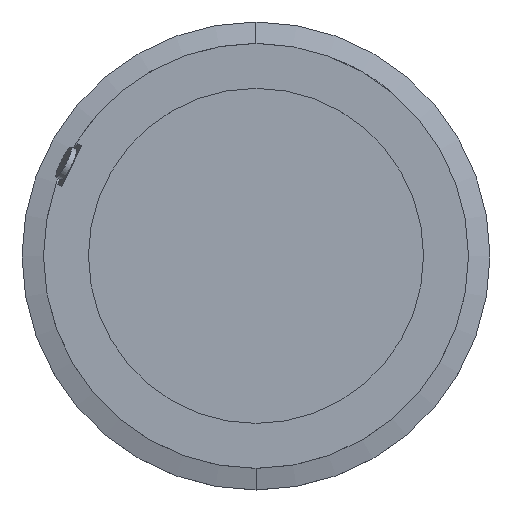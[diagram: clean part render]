
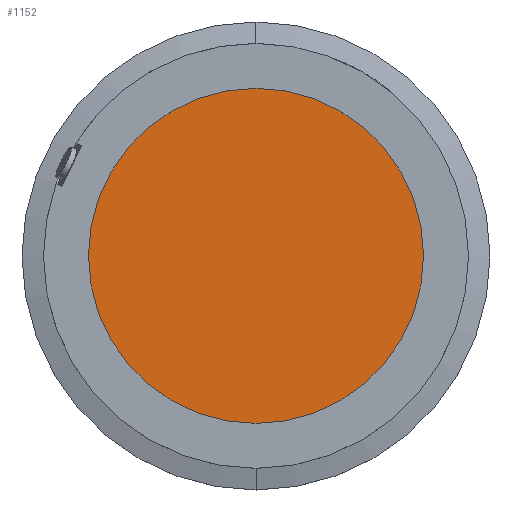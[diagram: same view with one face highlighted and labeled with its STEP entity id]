
A CAD part, top view. The second image highlights one B-rep face of the part: STEP entity #1152.
In plain terms, the highlighted planar face has unit normal (0, 0, 1).
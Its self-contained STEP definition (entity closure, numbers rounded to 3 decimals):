
#91 = DIRECTION ( 'NONE',  ( 0., 0., 1. ) ) ;
#167 = DIRECTION ( 'NONE',  ( 0., 1., 0. ) ) ;
#226 = CIRCLE ( 'NONE', #5444, 89.5 ) ;
#287 = CARTESIAN_POINT ( 'NONE',  ( 1940., 89.5, 1860. ) ) ;
#992 = EDGE_CURVE ( 'NONE', #2303, #2406, #3634, .T. ) ;
#1007 = CARTESIAN_POINT ( 'NONE',  ( 1995.5, 0., 1860. ) ) ;
#1020 = DIRECTION ( 'NONE',  ( 0., 0., -1. ) ) ;
#1152 = ADVANCED_FACE ( 'NONE', ( #1854 ), #5247, .T. ) ;
#1318 = EDGE_CURVE ( 'NONE', #2406, #2303, #226, .T. ) ;
#1837 = EDGE_LOOP ( 'NONE', ( #4596, #4226 ) ) ;
#1854 = FACE_OUTER_BOUND ( 'NONE', #1837, .T. ) ;
#2038 = DIRECTION ( 'NONE',  ( 0., 0., -1. ) ) ;
#2303 = VERTEX_POINT ( 'NONE', #4455 ) ;
#2406 = VERTEX_POINT ( 'NONE', #287 ) ;
#3508 = AXIS2_PLACEMENT_3D ( 'NONE', #3689, #2038, #5040 ) ;
#3634 = CIRCLE ( 'NONE', #3508, 89.5 ) ;
#3640 = CARTESIAN_POINT ( 'NONE',  ( 1940., 0., 1860. ) ) ;
#3689 = CARTESIAN_POINT ( 'NONE',  ( 1940., 0., 1860. ) ) ;
#3949 = DIRECTION ( 'NONE',  ( 0., -1., 0. ) ) ;
#4226 = ORIENTED_EDGE ( 'NONE', *, *, #992, .F. ) ;
#4455 = CARTESIAN_POINT ( 'NONE',  ( 1940., -89.5, 1860. ) ) ;
#4596 = ORIENTED_EDGE ( 'NONE', *, *, #1318, .F. ) ;
#5040 = DIRECTION ( 'NONE',  ( 0., 1., 0. ) ) ;
#5246 = AXIS2_PLACEMENT_3D ( 'NONE', #1007, #91, #3949 ) ;
#5247 = PLANE ( 'NONE',  #5246 ) ;
#5444 = AXIS2_PLACEMENT_3D ( 'NONE', #3640, #1020, #167 ) ;
